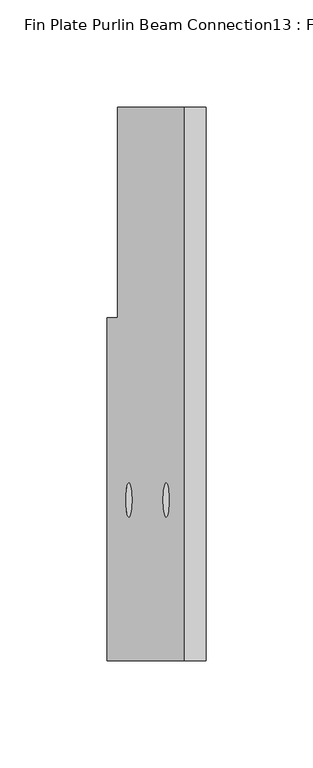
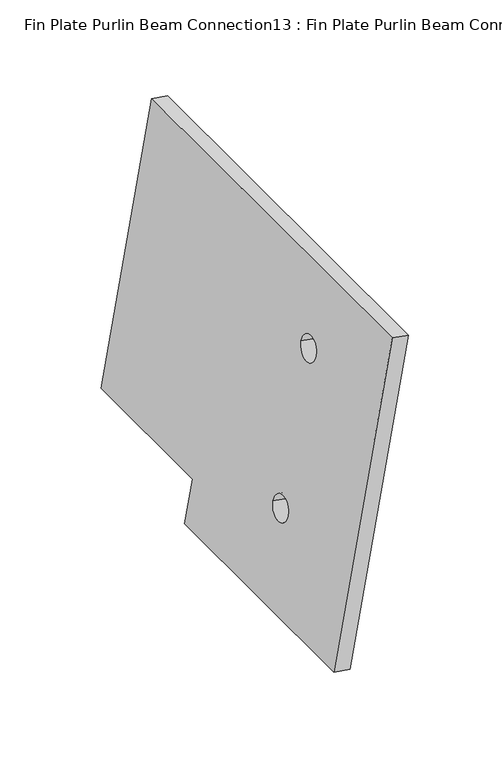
"""IFC4 building model written with IfcOpenShell, lengths in millimetres: proxy geometry, Fin Plate Purlin Beam Connection13 : Fin Plate Purlin Beam Connection."""

from ifc_helpers import new_model, si_unit, point, frame, frame_2d, origin, place, context, project, spatial, polyline, circle_curve, trimmed, segment, composite_curve, outline, extrude, source, transform, mapped, element, save


def fin_plate_purlin_beam_connection13_fin_plate_purlin_beam_64d9cd63(model_context):
    return source(origin(), model_context, "Body", "SweptSolid", [
        extrude(outline(polyline([(0.0, 0.0), (0.0, -181.2383863), (-258.2, -181.2383863), (-258.2, 27.7176621), (-98.2, 27.7176621), (-98.2, 0.0), (0.0, 0.0)]), holes=[composite_curve([segment(trimmed(circle_curve(frame_2d((-183.2, -131.2383863)), 8.0), [point((-175.2, -131.2383863))], [point((-191.2, -131.2383863))], True, "CARTESIAN"), True, "CONTINUOUS"), segment(trimmed(circle_curve(frame_2d((-183.2, -131.2383863)), 8.0), [point((-191.2, -131.2383863))], [point((-175.2, -131.2383863))], True, "CARTESIAN"), True, "CONTINUOUS")], self_intersect=False), composite_curve([segment(trimmed(circle_curve(frame_2d((-183.2, -31.2383863)), 8.0), [point((-175.2, -31.2383863))], [point((-191.2, -31.2383863))], True, "CARTESIAN"), True, "CONTINUOUS"), segment(trimmed(circle_curve(frame_2d((-183.2, -31.2383863)), 8.0), [point((-191.2, -31.2383863))], [point((-175.2, -31.2383863))], True, "CARTESIAN"), True, "CONTINUOUS")], self_intersect=False)]), frame((-34180.5342476, 15850.8229293, 3670.7127672), z_axis=(-0.9848077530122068, 0.0, 0.17364817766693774), x_axis=(0.0, 1.0, 0.0)), (0.0, 0.0, 1.0), 10.0),
    ])


if __name__ == "__main__":
    model = new_model("IFC4")
    model_context = context("Model", 3, world=origin())
    ifc_project = project(units=[si_unit("LENGTHUNIT", "METRE", prefix="MILLI")], contexts=[model_context])
    site = spatial("IfcSite", under=ifc_project)
    building = spatial("IfcBuilding", under=site)
    placement = place(None, origin())
    fin_plate_purlin_beam_connection13_fin_plate_purlin_beam_shape = fin_plate_purlin_beam_connection13_fin_plate_purlin_beam_64d9cd63(model_context)
    element("IfcBuildingElementProxy", 1, Name="Fin Plate Purlin Beam Connection13 : Fin Plate Purlin Beam Connection", ObjectType="Fin Plate Purlin Beam Connection13 : Fin Plate Purlin Beam Connection", at=placement, inside=building, context=model_context, shape_type="MappedRepresentation", body=[
        mapped(fin_plate_purlin_beam_connection13_fin_plate_purlin_beam_shape, transform((0.0, 0.0, 0.0), x_axis=(1.0, 0.0, 0.0), y_axis=(0.0, 1.0, 0.0), z_axis=(0.0, 0.0, 1.0))),
    ])
    save(model, "model.ifc")
